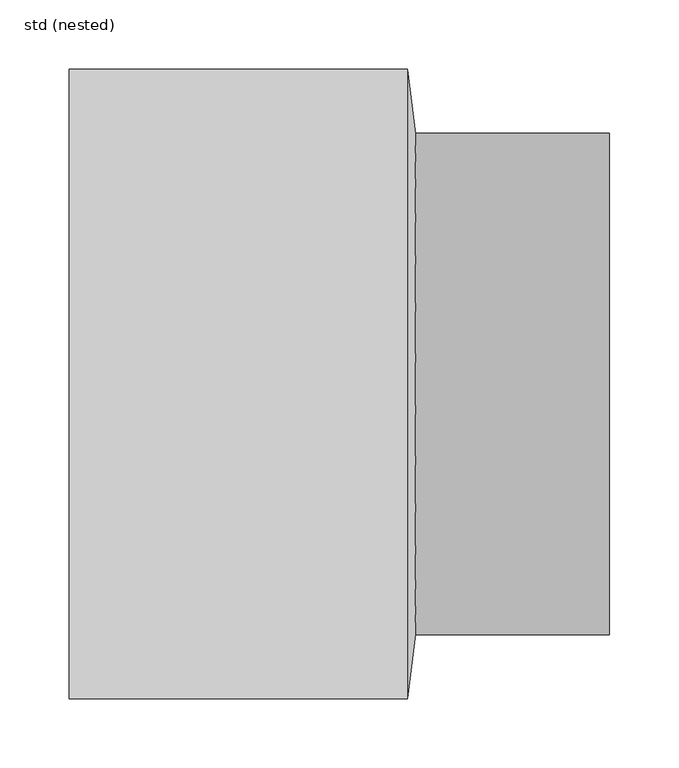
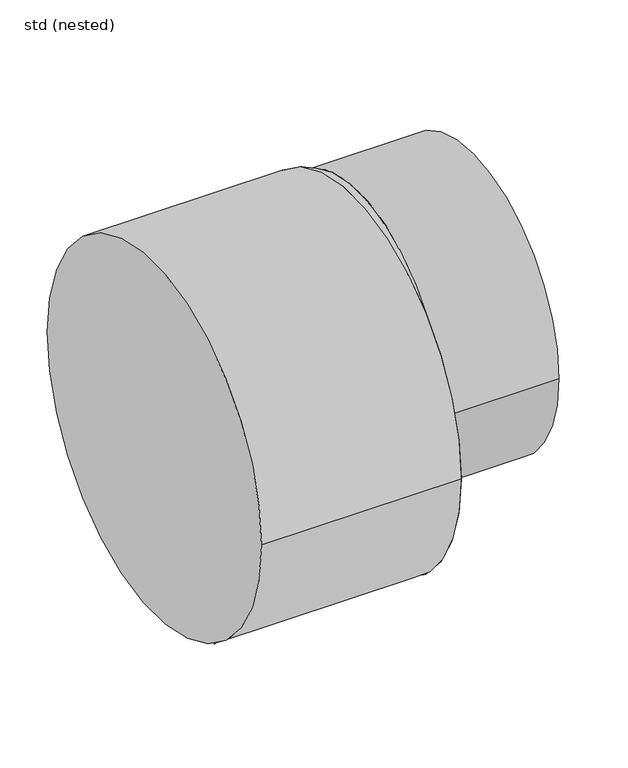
"""IFC4 building model written with IfcOpenShell, lengths in millimetres: pipe fitting geometry, NLRS_52_PIF_WPB_Ultra Kyma verloop MV SH_Dyka : std (nested)."""

from ifc_helpers import new_model, si_unit, point, frame, frame_2d, origin, origin_2d, place, context, project, spatial, circle_curve, trimmed, segment, composite_curve, outline, extrude, source, transform, mapped, element, save
from ifc_brep_helpers import plane_surface, spline_surface, advanced_brep


def std_nested_292d5628(model_context):
    return source(origin(), model_context, "Body", "SolidModel", [
        extrude(outline(composite_curve([segment(trimmed(circle_curve(frame_2d((0.0, 50.0)), 181.0), [point((-181.0, 50.0))], [point((181.0, 50.0))], False, "CARTESIAN"), True, "CONTINUOUS"), segment(trimmed(circle_curve(frame_2d((0.0, 50.0)), 181.0), [point((181.0, 50.0))], [point((-181.0, 50.0))], False, "CARTESIAN"), True, "CONTINUOUS")], self_intersect=False), holes=[composite_curve([segment(trimmed(circle_curve(frame_2d((0.0, 50.0)), 170.0), [point((170.0, 50.0))], [point((-170.0, 50.0))], True, "CARTESIAN"), True, "CONTINUOUS"), segment(trimmed(circle_curve(frame_2d((0.0, 50.0)), 170.0), [point((-170.0, 50.0))], [point((170.0, 50.0))], True, "CARTESIAN"), True, "CONTINUOUS")], self_intersect=False)]), frame((250.0, 0.0, 0.0), z_axis=(1.0, 0.0, 0.0), x_axis=(0.0, 1.0, 0.0)), (0.0, 0.0, 1.0), 140.0),
        extrude(outline(composite_curve([segment(trimmed(circle_curve(origin_2d(), 227.0), [point((-227.0, 0.0))], [point((227.0, 0.0))], False, "CARTESIAN"), True, "CONTINUOUS"), segment(trimmed(circle_curve(origin_2d(), 227.0), [point((227.0, 0.0))], [point((-227.0, 0.0))], False, "CARTESIAN"), True, "CONTINUOUS")], self_intersect=False)), frame((0.0, 0.0, 0.0), z_axis=(1.0, 0.0, 0.0), x_axis=(0.0, 1.0, 0.0)), (0.0, 0.0, 1.0), 244.0),
        advanced_brep(
        [(250.0, -181.0, 50.0), (250.0, 181.0, 50.0), (244.0, -227.0, 0.0), (244.0, 227.0, 0.0)],
        [
            (0, 1, circle_curve(frame((250.0, 0.0, 50.0), z_axis=(1.0, 0.0, 0.0), x_axis=(0.0, 1.0, 0.0)), 181.0)),
            (1, 0, circle_curve(frame((250.0, 0.0, 50.0), z_axis=(1.0, 0.0, 0.0), x_axis=(0.0, 1.0, 0.0)), 181.0)),
            (2, 3, circle_curve(frame((244.0, 0.0, 0.0), z_axis=(-1.0, 0.0, 0.0), x_axis=(0.0, 1.0, 0.0)), 227.0)),
            (3, 2, circle_curve(frame((244.0, 0.0, 0.0), z_axis=(-1.0, 0.0, 0.0), x_axis=(0.0, 1.0, 0.0)), 227.0)),
            (2, 0),
            (1, 3),
        ],
        [
            plane_surface(frame((250.0, 0.0, 50.0), z_axis=(1.0, 0.0, 0.0), x_axis=(0.0, 0.0, -1.0))),
            plane_surface(frame((244.0, 0.0, 0.0), z_axis=(-1.0, 0.0, 0.0), x_axis=(0.0, 0.0, -1.0))),
            spline_surface(2, 1, [[(244.0, 227.0, 0.0), (250.0, 181.0, 50.0)], [(244.0, 227.0, 227.0), (250.0, 181.0, 231.0)], [(244.0, 0.0, 227.0), (250.0, 0.0, 231.0)], [(244.0, -227.0, 227.0), (250.0, -181.0, 231.0)], [(244.0, -227.0, 0.0), (250.0, -181.0, 50.0)]], [3, 2, 3], [2, 2], [0.0, 1.0, 2.0], [0.0, 1.0], weights=[[1.0, 1.0], [0.7071067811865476, 0.7071067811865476], [1.0, 1.0], [0.7071067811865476, 0.7071067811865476], [1.0, 1.0]]),
            spline_surface(2, 1, [[(244.0, -227.0, 0.0), (250.0, -181.0, 50.0)], [(244.0, -227.0, -227.0), (250.0, -181.0, -131.0)], [(244.0, 0.0, -227.0), (250.0, 0.0, -131.0)], [(244.0, 227.0, -227.0), (250.0, 181.0, -131.0)], [(244.0, 227.0, 0.0), (250.0, 181.0, 50.0)]], [3, 2, 3], [2, 2], [0.0, 1.0, 2.0], [0.0, 1.0], weights=[[1.0, 1.0], [0.7071067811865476, 0.7071067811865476], [1.0, 1.0], [0.7071067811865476, 0.7071067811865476], [1.0, 1.0]]),
        ],
        [
            (0, [[1, 2]]),
            (1, [[3, 4]]),
            (2, [[-3, 5, -2, 6]]),
            (3, [[-4, -6, -1, -5]]),
        ],
    ),
    ])


if __name__ == "__main__":
    model = new_model("IFC4")
    model_context = context("Model", 3, world=origin())
    ifc_project = project(units=[si_unit("LENGTHUNIT", "METRE", prefix="MILLI")], contexts=[model_context])
    site = spatial("IfcSite", under=ifc_project)
    building = spatial("IfcBuilding", under=site)
    placement = place(None, origin())
    std_nested_shape = std_nested_292d5628(model_context)
    element("IfcPipeFitting", 1, ObjectType="NLRS_52_PIF_WPB_Ultra Kyma verloop MV SH_Dyka : std (nested)", at=placement, inside=building, context=model_context, shape_type="MappedRepresentation", body=[
        mapped(std_nested_shape, transform((0.0, 0.0, 0.0), x_axis=(1.0, 0.0, 0.0), y_axis=(0.0, 1.0, 0.0), z_axis=(0.0, 0.0, 1.0))),
    ])
    save(model, "model.ifc")
